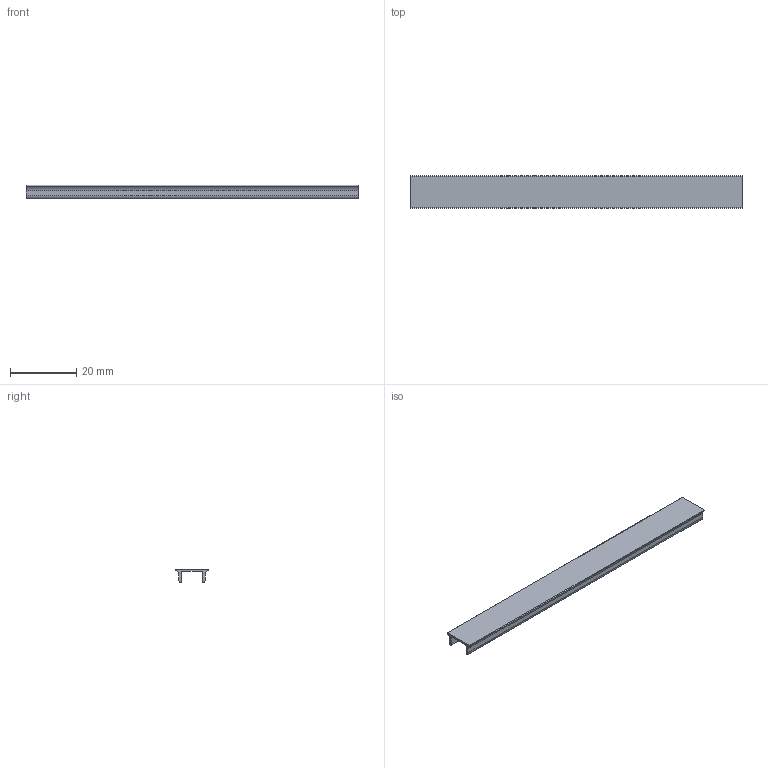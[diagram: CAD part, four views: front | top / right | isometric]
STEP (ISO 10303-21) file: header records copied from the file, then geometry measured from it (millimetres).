
FILE_DESCRIPTION (( 'STEP AP203' ), '1' );
FILE_NAME ('0108APALU.STEP', '2024-03-13T14:30:13', ( 'Windows-Benutzer' ), ( '' ), 'SwSTEP 2.0', 'SolidWorks 2023', '' );
FILE_SCHEMA (( 'CONFIG_CONTROL_DESIGN' ));
Length unit declared in the file: millimetre
Products named in the file (1): 0108APALU
Bounding box: 100 x 9.7 x 4 mm (x, y, z)
Volume: 1060.1 mm3; surface area: 3227.8 mm2
Topology: 1 solids, 1 shells, 22 faces, 60 edges, 40 vertices
Faces by surface type: cylinder 12, plane 10
Entity records: 785 total; most frequent: DIRECTION 130, CARTESIAN_POINT 123, ORIENTED_EDGE 120, EDGE_CURVE 60, AXIS2_PLACEMENT_3D 47, VERTEX_POINT 40, VECTOR 36, LINE 36
